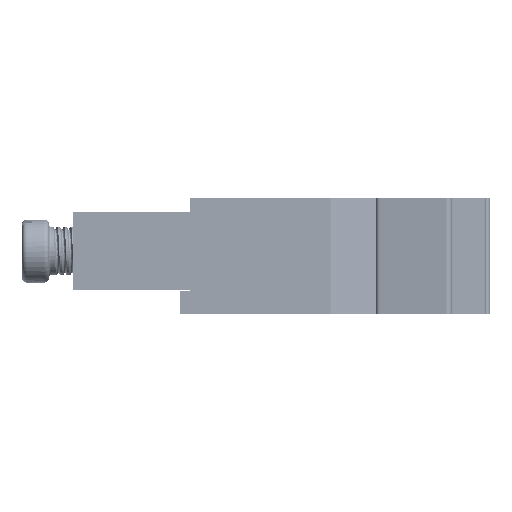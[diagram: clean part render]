
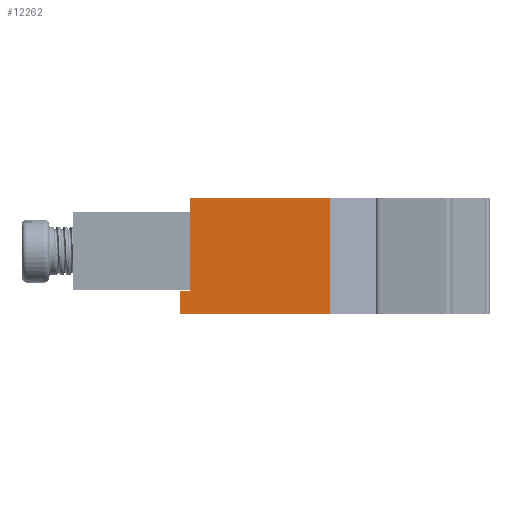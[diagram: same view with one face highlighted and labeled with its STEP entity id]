
A CAD part, left-side view. The second image highlights one B-rep face of the part: STEP entity #12262.
In plain terms, the highlighted planar face has unit normal (-1, 0, 0).
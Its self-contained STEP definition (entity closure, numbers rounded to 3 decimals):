
#459 = VECTOR ( 'NONE', #12216, 1000. ) ;
#2240 = VECTOR ( 'NONE', #2554, 1000. ) ;
#2554 = DIRECTION ( 'NONE',  ( 0., 1., 0. ) ) ;
#2784 = LINE ( 'NONE', #14141, #2240 ) ;
#3083 = CARTESIAN_POINT ( 'NONE',  ( 0., -14.487, 12. ) ) ;
#3343 = VECTOR ( 'NONE', #21441, 1000. ) ;
#3843 = LINE ( 'NONE', #9871, #3343 ) ;
#4586 = VECTOR ( 'NONE', #19905, 1000. ) ;
#5076 = LINE ( 'NONE', #9992, #4586 ) ;
#5876 = CARTESIAN_POINT ( 'NONE',  ( 0., 0., 12. ) ) ;
#6012 = DIRECTION ( 'NONE',  ( 0., 0., -1. ) ) ;
#9044 = CARTESIAN_POINT ( 'NONE',  ( 0., 0., 2.4 ) ) ;
#9281 = FACE_OUTER_BOUND ( 'NONE', #20525, .T. ) ;
#9282 = VERTEX_POINT ( 'NONE', #12139 ) ;
#9546 = ORIENTED_EDGE ( 'NONE', *, *, #17147, .F. ) ;
#9871 = CARTESIAN_POINT ( 'NONE',  ( 0., -14.6, 12. ) ) ;
#9939 = VERTEX_POINT ( 'NONE', #19052 ) ;
#9969 = EDGE_CURVE ( 'NONE', #16196, #12502, #15819, .T. ) ;
#9992 = CARTESIAN_POINT ( 'NONE',  ( 0., -14.6, 0. ) ) ;
#10363 = EDGE_CURVE ( 'NONE', #9939, #11163, #16331, .T. ) ;
#10556 = CARTESIAN_POINT ( 'NONE',  ( 0., -14.487, 12. ) ) ;
#10972 = ORIENTED_EDGE ( 'NONE', *, *, #20216, .T. ) ;
#11163 = VERTEX_POINT ( 'NONE', #13793 ) ;
#11385 = VECTOR ( 'NONE', #19134, 1000. ) ;
#12139 = CARTESIAN_POINT ( 'NONE',  ( 0., -14.487, 0. ) ) ;
#12216 = DIRECTION ( 'NONE',  ( 0., 0., 1. ) ) ;
#12262 = ADVANCED_FACE ( 'NONE', ( #9281 ), #20851, .F. ) ;
#12502 = VERTEX_POINT ( 'NONE', #9044 ) ;
#12622 = CARTESIAN_POINT ( 'NONE',  ( 0., -14.6, 12. ) ) ;
#13689 = LINE ( 'NONE', #10556, #459 ) ;
#13793 = CARTESIAN_POINT ( 'NONE',  ( 0., 1., 0. ) ) ;
#14141 = CARTESIAN_POINT ( 'NONE',  ( 0., 0., 2.4 ) ) ;
#15252 = VECTOR ( 'NONE', #16942, 1000. ) ;
#15819 = LINE ( 'NONE', #5876, #11385 ) ;
#15955 = DIRECTION ( 'NONE',  ( 1., 0., 0. ) ) ;
#16196 = VERTEX_POINT ( 'NONE', #21110 ) ;
#16331 = LINE ( 'NONE', #20237, #15252 ) ;
#16942 = DIRECTION ( 'NONE',  ( 0., 0., -1. ) ) ;
#17063 = VERTEX_POINT ( 'NONE', #3083 ) ;
#17147 = EDGE_CURVE ( 'NONE', #16196, #17063, #3843, .T. ) ;
#17253 = ORIENTED_EDGE ( 'NONE', *, *, #9969, .T. ) ;
#17298 = ORIENTED_EDGE ( 'NONE', *, *, #17463, .T. ) ;
#17463 = EDGE_CURVE ( 'NONE', #9282, #17063, #13689, .T. ) ;
#18663 = AXIS2_PLACEMENT_3D ( 'NONE', #12622, #15955, #6012 ) ;
#19052 = CARTESIAN_POINT ( 'NONE',  ( 0., 1., 2.4 ) ) ;
#19134 = DIRECTION ( 'NONE',  ( 0., 0., -1. ) ) ;
#19164 = ORIENTED_EDGE ( 'NONE', *, *, #10363, .T. ) ;
#19681 = EDGE_CURVE ( 'NONE', #12502, #9939, #2784, .T. ) ;
#19886 = ORIENTED_EDGE ( 'NONE', *, *, #19681, .T. ) ;
#19905 = DIRECTION ( 'NONE',  ( 0., -1., 0. ) ) ;
#20216 = EDGE_CURVE ( 'NONE', #11163, #9282, #5076, .T. ) ;
#20237 = CARTESIAN_POINT ( 'NONE',  ( 0., 1., 2.4 ) ) ;
#20525 = EDGE_LOOP ( 'NONE', ( #10972, #17298, #9546, #17253, #19886, #19164 ) ) ;
#20851 = PLANE ( 'NONE',  #18663 ) ;
#21110 = CARTESIAN_POINT ( 'NONE',  ( 0., 0., 12. ) ) ;
#21441 = DIRECTION ( 'NONE',  ( 0., -1., 0. ) ) ;
